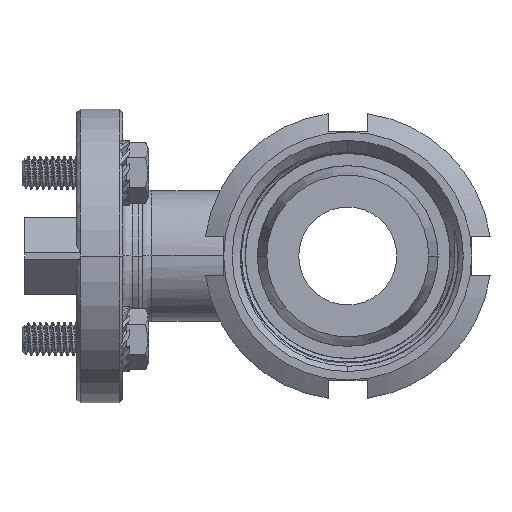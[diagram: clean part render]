
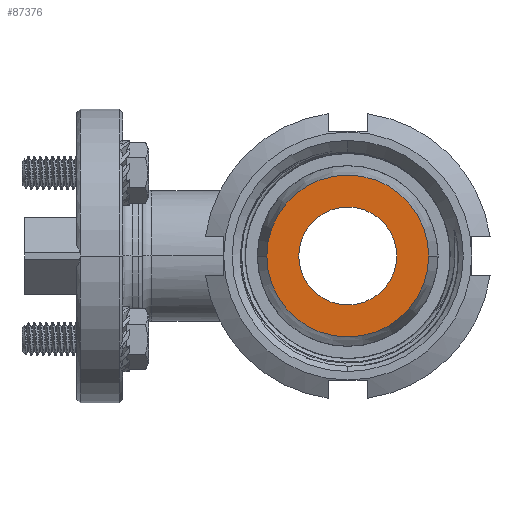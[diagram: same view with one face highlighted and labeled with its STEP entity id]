
A CAD part, left-side view. The second image highlights one B-rep face of the part: STEP entity #87376.
In plain terms, the highlighted planar face has unit normal (-1, 0, 0).
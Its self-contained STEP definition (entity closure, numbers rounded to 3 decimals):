
#33843=CARTESIAN_POINT('',(-52.,0.,0.));
#33844=DIRECTION('',(-1.,0.,0.));
#33845=DIRECTION('',(0.,1.,0.));
#33846=AXIS2_PLACEMENT_3D('',#33843,#33844,#33845);
#33859=CARTESIAN_POINT('',(-52.,0.,0.));
#33860=DIRECTION('',(1.,0.,0.));
#33861=DIRECTION('',(0.,1.,0.));
#33862=AXIS2_PLACEMENT_3D('',#33859,#33860,#33861);
#33867=CARTESIAN_POINT('',(-52.,0.,0.));
#33868=DIRECTION('',(1.,0.,0.));
#33869=DIRECTION('',(0.,-1.,0.));
#33870=AXIS2_PLACEMENT_3D('',#33867,#33868,#33869);
#37944=CARTESIAN_POINT('',(-52.,0.,0.));
#37945=DIRECTION('',(-1.,0.,0.));
#37946=DIRECTION('',(0.,-1.,0.));
#37947=AXIS2_PLACEMENT_3D('',#37944,#37945,#37946);
#55193=CARTESIAN_POINT('',(-52.,7.5,0.));
#55194=CARTESIAN_POINT('',(-52.,-7.5,0.));
#55195=VERTEX_POINT('',#55193);
#55196=VERTEX_POINT('',#55194);
#55213=CARTESIAN_POINT('',(-52.,12.392,0.));
#55214=CARTESIAN_POINT('',(-52.,-12.392,0.));
#55215=VERTEX_POINT('',#55213);
#55216=VERTEX_POINT('',#55214);
#87360=CARTESIAN_POINT('',(-52.,0.,0.));
#87361=DIRECTION('',(1.,0.,0.));
#87362=DIRECTION('',(0.,0.,-1.));
#87363=AXIS2_PLACEMENT_3D('',#87360,#87361,#87362);
#87364=PLANE('',#87363);
#87366=ORIENTED_EDGE('',*,*,#87365,.T.);
#87368=ORIENTED_EDGE('',*,*,#87367,.T.);
#87369=EDGE_LOOP('',(#87366,#87368));
#87370=FACE_OUTER_BOUND('',#87369,.F.);
#87371=ORIENTED_EDGE('',*,*,#87343,.T.);
#87373=ORIENTED_EDGE('',*,*,#87372,.T.);
#87374=EDGE_LOOP('',(#87371,#87373));
#87375=FACE_BOUND('',#87374,.F.);
#87376=ADVANCED_FACE('',(#87370,#87375),#87364,.F.);
#33847=CIRCLE('',#33846,7.5);
#33863=CIRCLE('',#33862,12.392);
#33871=CIRCLE('',#33870,12.392);
#37948=CIRCLE('',#37947,7.5);
#87343=EDGE_CURVE('',#55195,#55196,#33847,.T.);
#87365=EDGE_CURVE('',#55215,#55216,#33863,.T.);
#87367=EDGE_CURVE('',#55216,#55215,#33871,.T.);
#87372=EDGE_CURVE('',#55196,#55195,#37948,.T.);
